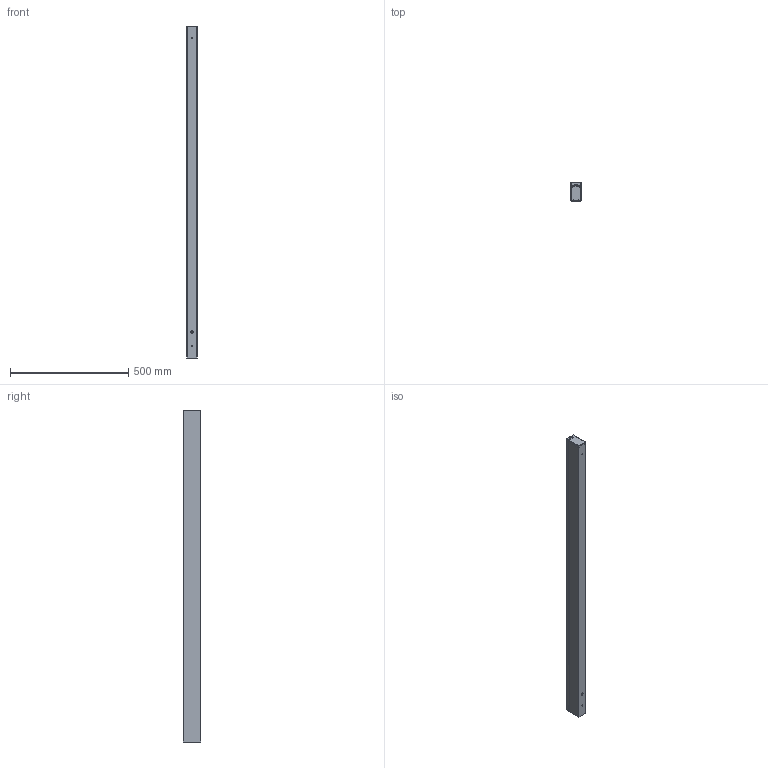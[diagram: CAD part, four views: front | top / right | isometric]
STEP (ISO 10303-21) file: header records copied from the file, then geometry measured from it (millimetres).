
FILE_DESCRIPTION (( 'STEP AP214' ), '1' );
FILE_NAME ('FINAL RP-RF.STEP', '2017-08-23T09:48:39', ( 'Ofitecnic3' ), ( 'Microsoft' ), 'SwSTEP 2.0', 'SolidWorks 2016', '' );
FILE_SCHEMA (( 'AUTOMOTIVE_DESIGN' ));
Length unit declared in the file: millimetre
Products named in the file (4): Difusor plástico-BIM_LED-1404mm; Tapa (LineR)-BIM; Perfil_extrusion (LineR)-BIM_LR2016-1404mm; FINAL RP-RF
Assembly tree (3 placements, depth 2):
  FINAL RP-RF
    Perfil_extrusion (LineR)-BIM_LR2016-1404mm
    Tapa (LineR)-BIM
    Difusor plástico-BIM_LED-1404mm
Bounding box: 42.5 x 74.75 x 1406.5 mm (x, y, z)
Volume: 601439.1 mm3; surface area: 676997.8 mm2
Topology: 3 solids, 3 shells, 237 faces, 592 edges, 370 vertices
Faces by surface type: plane 108, cylinder 86, bspline 41, sphere 2
Entity records: 8677 total; most frequent: CARTESIAN_POINT 3301, ORIENTED_EDGE 1180, DIRECTION 967, EDGE_CURVE 590, VERTEX_POINT 370, LINE 355, VECTOR 355, AXIS2_PLACEMENT_3D 306
